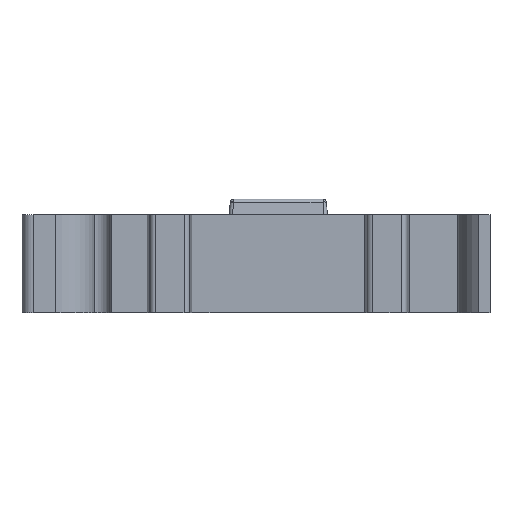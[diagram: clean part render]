
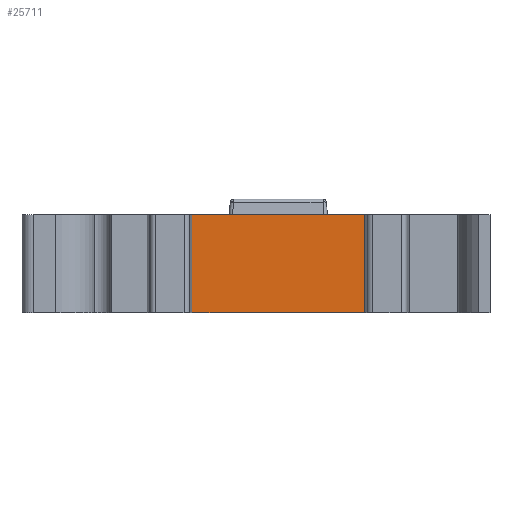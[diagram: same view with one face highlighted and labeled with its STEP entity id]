
A CAD part, front view. The second image highlights one B-rep face of the part: STEP entity #25711.
In plain terms, the highlighted planar face has unit normal (0, -1, 0).
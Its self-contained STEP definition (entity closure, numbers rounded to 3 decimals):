
#4559=FACE_OUTER_BOUND('',#6033,.T.);
#6033=EDGE_LOOP('',(#23941,#23942,#23943,#23944));
#6047=LINE('',#29657,#7898);
#6267=LINE('',#30470,#8118);
#7820=LINE('',#45620,#9671);
#7885=LINE('',#45782,#9736);
#7898=VECTOR('',#26428,15.5);
#8118=VECTOR('',#27092,15.5);
#9671=VECTOR('',#29389,8.8);
#9736=VECTOR('',#29614,8.8);
#9751=VERTEX_POINT('',#29654);
#9752=VERTEX_POINT('',#29656);
#10002=VERTEX_POINT('',#30467);
#10003=VERTEX_POINT('',#30469);
#12316=EDGE_CURVE('',#9751,#9752,#6047,.T.);
#12669=EDGE_CURVE('',#10002,#10003,#6267,.T.);
#16112=EDGE_CURVE('',#9752,#10002,#7820,.T.);
#16184=EDGE_CURVE('',#9751,#10003,#7885,.T.);
#23941=ORIENTED_EDGE('',*,*,#16184,.T.);
#23942=ORIENTED_EDGE('',*,*,#12669,.F.);
#23943=ORIENTED_EDGE('',*,*,#16112,.F.);
#23944=ORIENTED_EDGE('',*,*,#12316,.F.);
#24312=PLANE('',#26398);
#25711=ADVANCED_FACE('',(#4559),#24312,.T.);
#26398=AXIS2_PLACEMENT_3D('',#45783,#29615,#29616);
#26428=DIRECTION('',(1.,0.,0.));
#27092=DIRECTION('',(-1.,0.,0.));
#29389=DIRECTION('',(0.,0.,-1.));
#29614=DIRECTION('',(0.,0.,-1.));
#29615=DIRECTION('center_axis',(0.,-1.,0.));
#29616=DIRECTION('ref_axis',(-1.,0.,0.));
#29654=CARTESIAN_POINT('',(-7.75,-25.5,7.2));
#29656=CARTESIAN_POINT('',(7.75,-25.5,7.2));
#29657=CARTESIAN_POINT('',(7.75,-25.5,7.2));
#30467=CARTESIAN_POINT('',(7.75,-25.5,-1.6));
#30469=CARTESIAN_POINT('',(-7.75,-25.5,-1.6));
#30470=CARTESIAN_POINT('',(7.75,-25.5,-1.6));
#45620=CARTESIAN_POINT('',(7.75,-25.5,0.));
#45782=CARTESIAN_POINT('',(-7.75,-25.5,0.));
#45783=CARTESIAN_POINT('Origin',(7.75,-25.5,0.));
